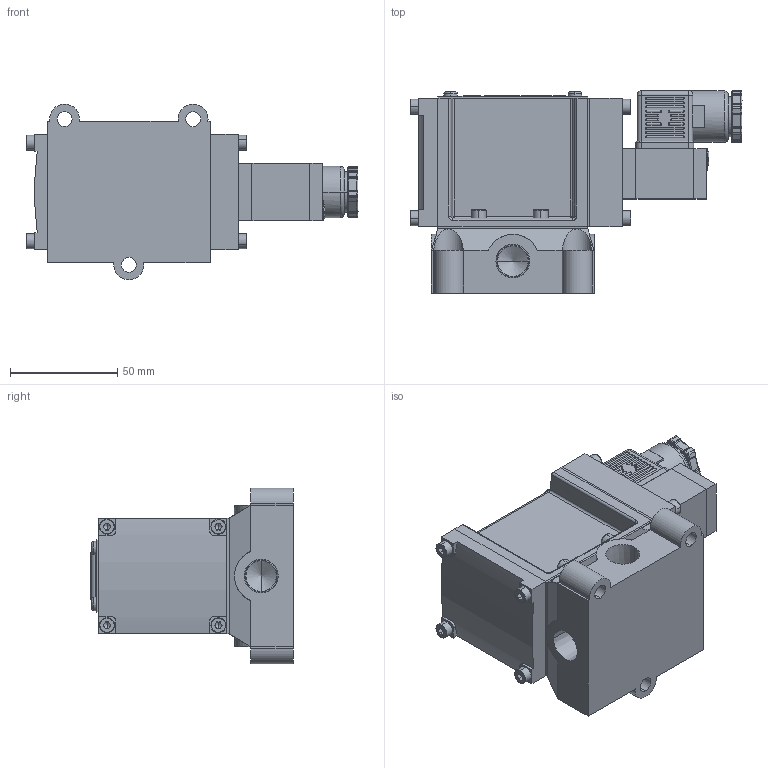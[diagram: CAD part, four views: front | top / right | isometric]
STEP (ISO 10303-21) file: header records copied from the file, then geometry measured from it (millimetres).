
FILE_DESCRIPTION (( 'STEP AP203' ), '1' );
FILE_NAME ('PMS2408#-03-#C#.STEP', '2016-03-09T08:33:41', ( 'Sam Lin' ), ( '' ), 'SwSTEP 2.0', 'SolidWorks 2013', '' );
FILE_SCHEMA (( 'CONFIG_CONTROL_DESIGN' ));
Length unit declared in the file: metre
Products named in the file (17): PMS2408-2; PMS2408-3; PMS2408-4; PMS2408-5; PMS2408-6; PMS2408-7; PMS2408-8; PM08-MARK-2408; PM06-C3-M4_1; PMS2408-1(03); PM06-C1_1; PM06-C4_1; PM06-C6-M3_1; PM06-C5_1; PMS2306-6(C); ISO 4762 M4 x 10; PMS2408#-03-#C#
Assembly tree (29 placements, depth 2):
  PMS2408#-03-#C#
    PMS2408-2
    PMS2408-3
    PMS2408-4
    PMS2408-5
    PMS2408-6
    PMS2408-7
    PMS2408-8
    PM08-MARK-2408
    PM06-C3-M4_1  x3
    PMS2408-1(03)
    PM06-C1_1
    PM06-C4_1
    PM06-C6-M3_1  x2
    PM06-C5_1
    PMS2306-6(C)
    ISO 4762 M4 x 10  x11
Bounding box: 155 x 94.64 x 82 mm (x, y, z)
Volume: 430670.9 mm3; surface area: 107650.1 mm2
Topology: 35 solids, 35 shells, 1126 faces, 2768 edges, 1612 vertices
Faces by surface type: plane 484, cylinder 301, bspline 234, cone 107
Entity records: 31274 total; most frequent: CARTESIAN_POINT 12525, ORIENTED_EDGE 3536, DIRECTION 3297, EDGE_CURVE 1768, AXIS2_PLACEMENT_3D 1212, VERTEX_POINT 1109, VECTOR 873, LINE 873
